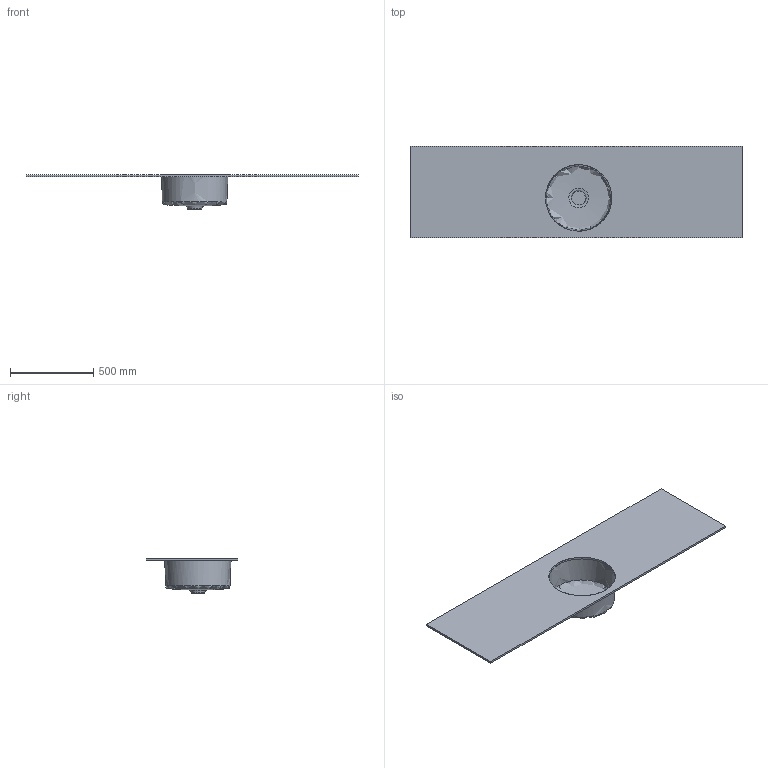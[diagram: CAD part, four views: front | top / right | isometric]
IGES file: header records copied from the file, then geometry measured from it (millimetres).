
Start section:  Autodesk Design for Windows version 2010 IGES version 5.3  Autodesk Design for Windows version 2010 IGES version 5.3
Global section: file name: D:\Desktop\GIOVANNI\SCHEDE PRODOTTO\PIANI LAVABO\CIRCLE\3D\MOMA DESIGN_PIANI LAVABO_MODULE.igs; native system: Rhinoceros ( Jan 17 2018 ); preprocessor: Trout Lake IGES 012 Jan 17 2018; date: 230606.064306; units: millimetre
Bounding box: 2000 x 550 x 210.4 mm (x, y, z)
Surface area: 2373051.3 mm2 (no closed solid volume)
Topology: 0 solids, 0 shells, 41 faces, 215 edges, 210 vertices
Faces by surface type: bspline 41
